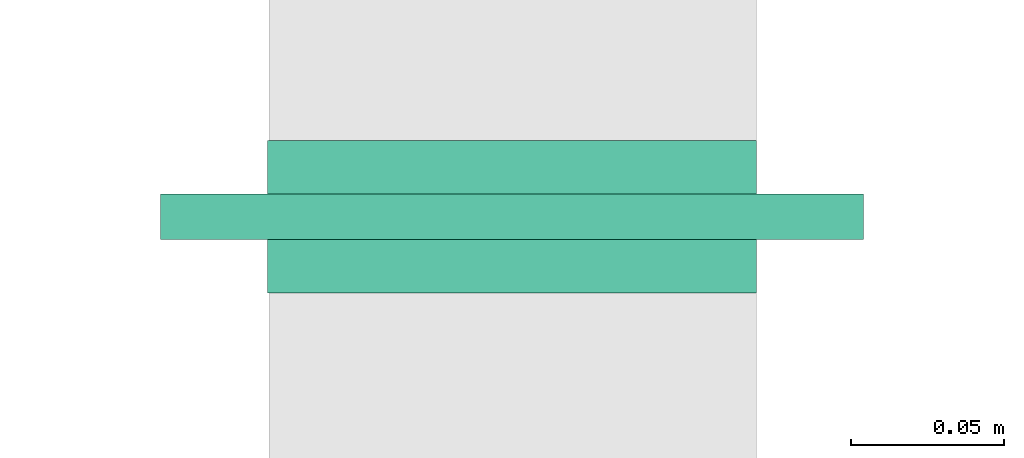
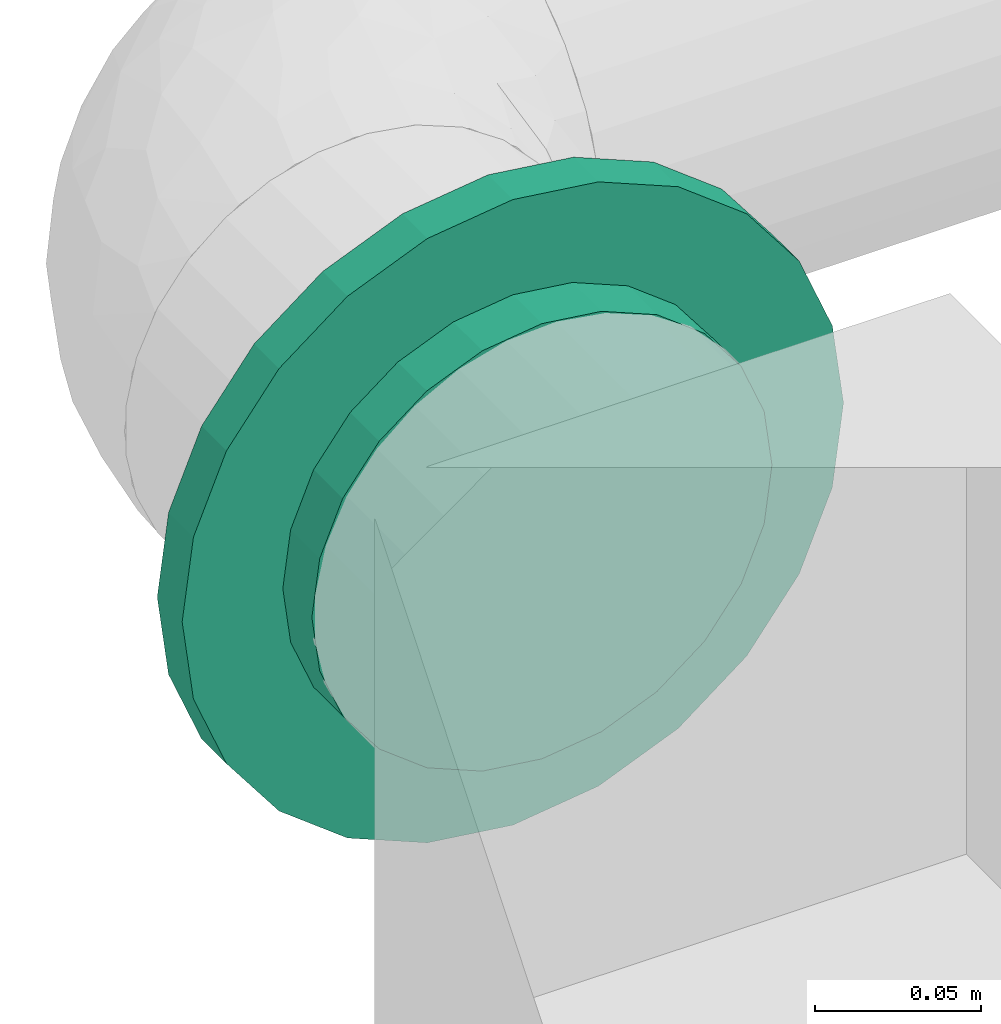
# One storey, part 10 of 16: 1 flow controller.
"""IFC2X3 building model written with IfcOpenShell, lengths in millimetres."""

from ifc_helpers import new_model, entity, si_unit, converted_unit, derived_unit, direction, frame, origin_with_axes, place, context, subcontext, project, spatial, open_shell, surface_model, source, transform, mapped, type_object, element, save


model = new_model("IFC2X3")

# Units and contexts
model_context = context("Model", 3, precision=0.01, world=frame((0.0, 4.29681676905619e-09, 0.0)), true_north=direction((4.01073788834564e-13, 1.0)))
plan_context = context("Plan", 3, precision=0.01, world=frame((0.0, 4.29681676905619e-09, 0.0)), true_north=direction((4.01073788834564e-13, 1.0)))
body_context = subcontext(model_context, "Body", "Model", "MODEL_VIEW")
ifc_project = project(units=[converted_unit("PLANEANGLEUNIT", "DEGREE", entity("IfcPositiveLengthMeasure", 0.0174532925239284), si_unit("PLANEANGLEUNIT", "RADIAN"), dimensions=[0, 0, 0, 0, 0, 0, 0]), si_unit("AREAUNIT", "SQUARE_METRE"), si_unit("LENGTHUNIT", "METRE", prefix="MILLI"), si_unit("MASSUNIT", "GRAM", prefix="KILO"), si_unit("POWERUNIT", "WATT"), si_unit("PRESSUREUNIT", "PASCAL"), si_unit("FORCEUNIT", "NEWTON", prefix="KILO"), si_unit("ELECTRICVOLTAGEUNIT", "VOLT"), si_unit("ELECTRICCURRENTUNIT", "AMPERE"), si_unit("THERMODYNAMICTEMPERATUREUNIT", "DEGREE_CELSIUS"), si_unit("TIMEUNIT", "SECOND"), si_unit("VOLUMEUNIT", "CUBIC_METRE"), derived_unit("LINEARVELOCITYUNIT", [(si_unit("LENGTHUNIT", "METRE"), 1), (si_unit("TIMEUNIT", "SECOND"), -1)]), derived_unit("VOLUMETRICFLOWRATEUNIT", [(si_unit("VOLUMEUNIT", "CUBIC_METRE"), 1), (si_unit("TIMEUNIT", "SECOND"), -1)]), derived_unit("THERMALTRANSMITTANCEUNIT", [(si_unit("POWERUNIT", "WATT"), 1), (si_unit("THERMODYNAMICTEMPERATUREUNIT", "KELVIN"), -1), (si_unit("AREAUNIT", "SQUARE_METRE"), -1)]), derived_unit("SOUNDPRESSUREUNIT", [(si_unit("PRESSUREUNIT", "PASCAL"), 1)])], contexts=[model_context, plan_context])

# Site, building, storey
site_placement = place(None, frame((0.0, -4.29681676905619e-09, 0.0), z_axis=(0.0, 0.0, 1.0), x_axis=(1.0, 0.0, 0.0)))
site = spatial("IfcSite", under=ifc_project, at=site_placement, Name="ENGM", CompositionType="ELEMENT")
building_placement = place(site_placement, frame((0.0, 4.29681676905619e-09, 0.0), z_axis=(0.0, 0.0, 1.0), x_axis=(1.0, 0.0, 0.0)))
building = spatial("IfcBuilding", under=site, at=building_placement, Name="TH", CompositionType="ELEMENT")
storey_placement = place(building_placement, frame((0.0, 0.0, 210200.0), z_axis=(0.0, 0.0, 1.0), x_axis=(1.0, 0.0, 0.0)))
storey = spatial("IfcBuildingStorey", under=building, at=storey_placement, Name="Nivå F - 0,7 m", CompositionType="ELEMENT", Elevation=210200.0)

# Flow controller
damper_type = type_object("IfcDamperType", Name="IRIS-160", PredefinedType="BALANCINGDAMPER")
shared_shape = source(origin_with_axes(), body_context, "Body", "SurfaceModel", [
    surface_model("IfcShellBasedSurfaceModel", [(25.0, 40.0, -69.28203), (25.0, 0.0, -80.0), (25.0, 20.70552, -77.27406), (25.0, 77.27406, -20.70552), (25.0, 56.56854, -56.56854), (25.0, -77.27406, -20.70552), (25.0, -80.0, 0.0), (25.0, 69.28203, -40.0), (25.0, -40.0, -69.28203), (25.0, -20.70552, -77.27406), (25.0, -56.56854, -56.56854), (25.0, -69.28203, -40.0), (25.0, 80.0, 0.0), (25.0, 77.27406, 20.70552), (25.0, 69.28203, 40.0), (25.0, 56.56854, 56.56854), (25.0, 20.70552, 77.27406), (25.0, 40.0, 69.28203), (25.0, -56.56854, 56.56854), (25.0, 0.0, 80.0), (25.0, -69.28203, 40.0), (25.0, -77.27406, 20.70552), (25.0, -20.70552, 77.27406), (25.0, -40.0, 69.28203), (7.5, 20.70552, 77.27406), (7.5, -56.56854, 56.56854), (7.5, 0.0, 80.0), (7.5, 56.56854, 56.56854), (7.5, 40.0, 69.28203), (7.5, 69.28203, 40.0), (7.5, 77.27406, 20.70552), (7.5, -20.70552, 77.27406), (7.5, -40.0, 69.28203), (7.5, -69.28203, 40.0), (7.5, -56.56854, -56.56854), (7.5, -77.27406, 20.70552), (7.5, -80.0, 0.0), (7.5, -77.27406, -20.70552), (7.5, 80.0, 0.0), (7.5, 56.56854, -56.56854), (7.5, 77.27406, -20.70552), (7.5, 69.28203, -40.0), (7.5, 40.0, -69.28203), (7.5, 0.0, -80.0), (7.5, 20.70552, -77.27406), (7.5, -69.28203, -40.0), (7.5, -40.0, -69.28203), (7.5, -20.70552, -77.27406), (7.5, 57.5, -99.59292), (7.5, 0.0, -115.0), (7.5, 29.76419, -111.08147), (7.5, 99.59292, -57.5), (7.5, 81.31728, -81.31728), (7.5, -57.5, -99.59292), (7.5, 111.08147, -29.76419), (7.5, 81.31728, 81.31728), (7.5, -29.76419, -111.08147), (7.5, -99.59292, -57.5), (7.5, -81.31728, -81.31728), (7.5, -111.08147, -29.76419), (7.5, 0.0, 115.0), (7.5, 111.08147, 29.76419), (7.5, 115.0, 0.0), (7.5, 99.59292, 57.5), (7.5, 29.76419, 111.08147), (7.5, 57.5, 99.59292), (7.5, -115.0, 0.0), (7.5, -99.59292, 57.5), (7.5, -111.08147, 29.76419), (7.5, -81.31728, 81.31728), (7.5, -29.76419, 111.08147), (7.5, -57.5, 99.59292), (-7.5, 81.31728, 81.31728), (-7.5, 0.0, 115.0), (-7.5, 29.76419, 111.08147), (-7.5, 57.5, 99.59292), (-7.5, 99.59292, 57.5), (-7.5, 111.08147, 29.76419), (-7.5, -29.76419, 111.08147), (-7.5, -81.31728, 81.31728), (-7.5, -57.5, 99.59292), (-7.5, -115.0, 0.0), (-7.5, -99.59292, 57.5), (-7.5, -111.08147, 29.76419), (-7.5, 99.59292, -57.5), (-7.5, 111.08147, -29.76419), (-7.5, -111.08147, -29.76419), (-7.5, 57.5, -99.59292), (-7.5, 0.0, -115.0), (-7.5, 81.31728, -81.31728), (-7.5, 29.76419, -111.08147), (-7.5, -99.59292, -57.5), (-7.5, -57.5, -99.59292), (-7.5, -81.31728, -81.31728), (-7.5, -29.76419, -111.08147), (-7.5, 115.0, 0.0), (-7.5, 40.0, -69.28203), (-7.5, 0.0, -80.0), (-7.5, 20.70552, -77.27406), (-7.5, 77.27406, -20.70552), (-7.5, 56.56854, -56.56854), (-7.5, -77.27406, -20.70552), (-7.5, -80.0, 0.0), (-7.5, 69.28203, -40.0), (-7.5, -40.0, -69.28203), (-7.5, -20.70552, -77.27406), (-7.5, -56.56854, -56.56854), (-7.5, -69.28203, -40.0), (-7.5, 80.0, 0.0), (-7.5, 77.27406, 20.70552), (-7.5, 69.28203, 40.0), (-7.5, 56.56854, 56.56854), (-7.5, 20.70552, 77.27406), (-7.5, 40.0, 69.28203), (-7.5, -56.56854, 56.56854), (-7.5, 0.0, 80.0), (-7.5, -69.28203, 40.0), (-7.5, -77.27406, 20.70552), (-7.5, -20.70552, 77.27406), (-7.5, -40.0, 69.28203), (-25.0, 20.70552, 77.27406), (-25.0, -56.56854, 56.56854), (-25.0, 0.0, 80.0), (-25.0, 56.56854, 56.56854), (-25.0, 40.0, 69.28203), (-25.0, 69.28203, 40.0), (-25.0, 77.27406, 20.70552), (-25.0, -20.70552, 77.27406), (-25.0, -40.0, 69.28203), (-25.0, -69.28203, 40.0), (-25.0, -56.56854, -56.56854), (-25.0, -77.27406, 20.70552), (-25.0, -80.0, 0.0), (-25.0, -77.27406, -20.70552), (-25.0, 80.0, 0.0), (-25.0, 56.56854, -56.56854), (-25.0, 77.27406, -20.70552), (-25.0, 69.28203, -40.0), (-25.0, 40.0, -69.28203), (-25.0, 0.0, -80.0), (-25.0, 20.70552, -77.27406), (-25.0, -69.28203, -40.0), (-25.0, -40.0, -69.28203), (-25.0, -20.70552, -77.27406)], [open_shell([[[0, 1, 2]], [[3, 0, 4]], [[5, 0, 6]], [[3, 4, 7]], [[0, 3, 6]], [[1, 8, 9]], [[8, 1, 10]], [[10, 5, 11]], [[10, 1, 0]], [[0, 5, 10]], [[3, 12, 6]], [[13, 14, 15]], [[6, 13, 15]], [[6, 15, 16]], [[16, 15, 17]], [[18, 16, 19]], [[16, 20, 21]], [[21, 6, 16]], [[18, 22, 23]], [[20, 16, 18]], [[22, 18, 19]], [[13, 6, 12]], [[24, 25, 26]], [[27, 24, 28]], [[27, 29, 30]], [[24, 27, 25]], [[30, 25, 27]], [[31, 25, 32]], [[31, 26, 25]], [[33, 34, 35]], [[36, 35, 37]], [[34, 33, 25]], [[25, 30, 38]], [[39, 38, 40]], [[39, 40, 41]], [[38, 42, 34]], [[42, 38, 39]], [[43, 42, 44]], [[37, 34, 45]], [[35, 34, 37]], [[46, 43, 47]], [[43, 46, 34]], [[42, 43, 34]], [[34, 25, 38]], [[37, 5, 36]], [[45, 11, 37]], [[8, 34, 46]], [[45, 34, 10]], [[9, 46, 47]], [[37, 11, 5]], [[5, 6, 36]], [[9, 8, 46]], [[10, 34, 8]], [[10, 11, 45]], [[1, 9, 47]], [[47, 43, 1]], [[44, 2, 43]], [[42, 0, 44]], [[7, 39, 41]], [[42, 39, 4]], [[3, 41, 40]], [[42, 4, 0]], [[0, 2, 44]], [[12, 3, 40]], [[7, 41, 3]], [[7, 4, 39]], [[38, 12, 40]], [[43, 2, 1]], [[30, 13, 38]], [[29, 14, 30]], [[17, 27, 28]], [[29, 27, 15]], [[16, 28, 24]], [[30, 14, 13]], [[13, 12, 38]], [[16, 17, 28]], [[15, 27, 17]], [[15, 14, 29]], [[19, 16, 24]], [[24, 26, 19]], [[31, 22, 26]], [[32, 23, 31]], [[20, 25, 33]], [[32, 25, 18]], [[21, 33, 35]], [[32, 18, 23]], [[23, 22, 31]], [[36, 6, 21]], [[20, 33, 21]], [[20, 18, 25]], [[35, 36, 21]], [[26, 22, 19]], [[48, 49, 50]], [[51, 48, 52]], [[53, 51, 54]], [[51, 53, 48]], [[54, 55, 53]], [[49, 53, 56]], [[49, 48, 53]], [[53, 57, 58]], [[57, 53, 59]], [[53, 60, 59]], [[61, 54, 62]], [[61, 63, 55]], [[55, 60, 53]], [[64, 60, 55]], [[64, 55, 65]], [[59, 60, 66]], [[66, 67, 68]], [[67, 66, 69]], [[69, 70, 71]], [[70, 69, 66]], [[66, 60, 70]], [[55, 54, 61]], [[72, 73, 74]], [[72, 74, 75]], [[72, 76, 77]], [[73, 72, 78]], [[78, 72, 77]], [[78, 79, 80]], [[79, 78, 81]], [[82, 81, 83]], [[81, 82, 79]], [[78, 77, 81]], [[77, 84, 81]], [[77, 85, 84]], [[86, 81, 84]], [[84, 87, 88]], [[87, 84, 89]], [[87, 90, 88]], [[91, 92, 93]], [[92, 91, 86]], [[92, 88, 94]], [[92, 86, 84]], [[84, 88, 92]], [[85, 77, 95]], [[86, 59, 81]], [[91, 57, 86]], [[53, 93, 92]], [[91, 93, 58]], [[56, 92, 94]], [[86, 57, 59]], [[59, 66, 81]], [[56, 53, 92]], [[58, 93, 53]], [[58, 57, 91]], [[49, 56, 94]], [[94, 88, 49]], [[90, 50, 88]], [[87, 48, 90]], [[51, 89, 84]], [[87, 89, 52]], [[54, 84, 85]], [[87, 52, 48]], [[48, 50, 90]], [[62, 54, 85]], [[51, 84, 54]], [[51, 52, 89]], [[95, 62, 85]], [[88, 50, 49]], [[77, 61, 95]], [[76, 63, 77]], [[65, 72, 75]], [[76, 72, 55]], [[64, 75, 74]], [[77, 63, 61]], [[61, 62, 95]], [[64, 65, 75]], [[55, 72, 65]], [[55, 63, 76]], [[60, 64, 74]], [[74, 73, 60]], [[78, 70, 73]], [[80, 71, 78]], [[83, 81, 68]], [[79, 69, 80]], [[80, 69, 71]], [[71, 70, 78]], [[82, 67, 69]], [[82, 83, 67]], [[67, 83, 68]], [[81, 66, 68]], [[82, 69, 79]], [[73, 70, 60]], [[96, 97, 98]], [[99, 96, 100]], [[101, 96, 102]], [[99, 100, 103]], [[96, 99, 102]], [[97, 104, 105]], [[104, 97, 106]], [[106, 101, 107]], [[106, 97, 96]], [[96, 101, 106]], [[99, 108, 102]], [[109, 110, 111]], [[102, 109, 111]], [[102, 111, 112]], [[112, 111, 113]], [[114, 112, 115]], [[112, 116, 117]], [[117, 102, 112]], [[114, 118, 119]], [[116, 112, 114]], [[118, 114, 115]], [[109, 102, 108]], [[120, 121, 122]], [[123, 120, 124]], [[123, 125, 126]], [[120, 123, 121]], [[126, 121, 123]], [[127, 121, 128]], [[127, 122, 121]], [[129, 130, 131]], [[132, 131, 133]], [[130, 129, 121]], [[121, 126, 134]], [[135, 134, 136]], [[135, 136, 137]], [[134, 138, 130]], [[138, 134, 135]], [[139, 138, 140]], [[133, 130, 141]], [[131, 130, 133]], [[142, 139, 143]], [[139, 142, 130]], [[138, 139, 130]], [[130, 121, 134]], [[133, 101, 132]], [[141, 107, 133]], [[104, 130, 142]], [[141, 130, 106]], [[105, 142, 143]], [[133, 107, 101]], [[101, 102, 132]], [[105, 104, 142]], [[106, 130, 104]], [[106, 107, 141]], [[97, 105, 143]], [[143, 139, 97]], [[140, 98, 139]], [[138, 96, 140]], [[103, 135, 137]], [[138, 135, 100]], [[99, 137, 136]], [[138, 100, 96]], [[96, 98, 140]], [[108, 99, 136]], [[103, 137, 99]], [[103, 100, 135]], [[134, 108, 136]], [[139, 98, 97]], [[126, 109, 134]], [[125, 110, 126]], [[113, 123, 124]], [[125, 123, 111]], [[112, 124, 120]], [[126, 110, 109]], [[109, 108, 134]], [[112, 113, 124]], [[111, 123, 113]], [[111, 110, 125]], [[115, 112, 120]], [[120, 122, 115]], [[127, 118, 122]], [[128, 119, 127]], [[116, 121, 129]], [[128, 121, 114]], [[117, 129, 131]], [[128, 114, 119]], [[119, 118, 127]], [[132, 102, 117]], [[116, 129, 117]], [[116, 114, 121]], [[131, 132, 117]], [[122, 118, 115]]])]),
])
flow_controller_placement = place(storey_placement, frame((898319.6162, 484285.13917, 2700.0), z_axis=(0.0, 0.0, 1.0), x_axis=(0.0, 1.0, 0.0)))
element("IfcFlowController", 1, at=flow_controller_placement, inside=storey, type_object=damper_type, Name="IRIS-160", context=body_context, shape_type="MappedRepresentation", body=[
    mapped(shared_shape, transform((0.0, 0.0, 0.0), scale=1.0)),
])

save(model, "model.ifc")
